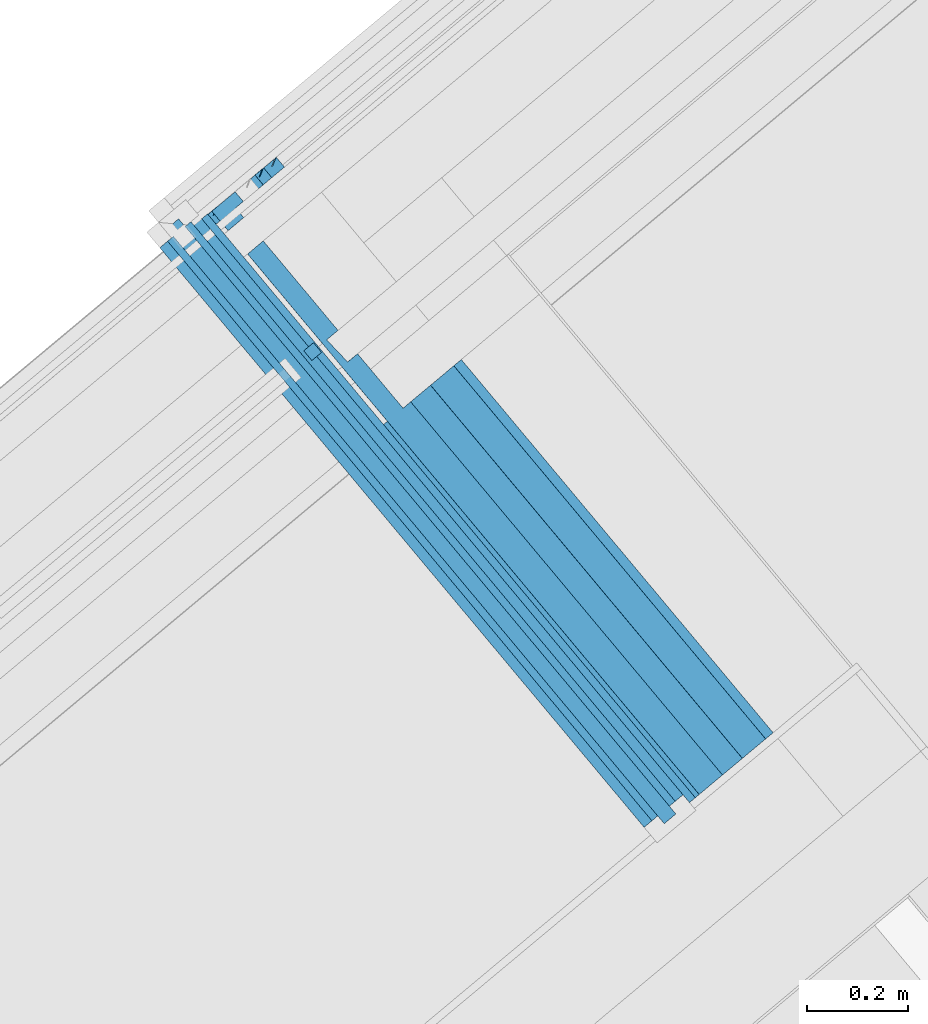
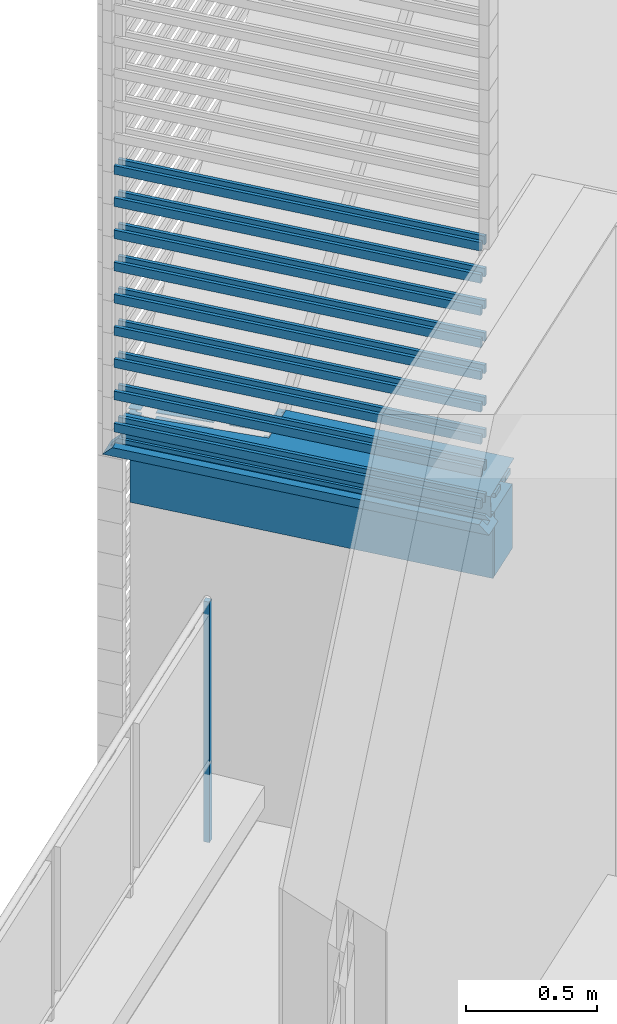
# One storey, part 21 of 50: 16 building element parts, 3 elements without a shape of their own.
"""IFC4 building model written with IfcOpenShell, lengths in metres."""

from ifc_helpers import new_model, entity, si_unit, converted_unit, derived_unit, direction, frame, origin_with_axes, place, context, subcontext, project, spatial, polygons, material, type_object, element, aggregate, save


model = new_model("IFC4")

# Units and contexts
model_context = context("Model", 3, precision=1e-05, world=origin_with_axes(), true_north=direction((0.0, 1.0)))
body_context = subcontext(model_context, "Body", "Model", "MODEL_VIEW")
ifc_project = project(units=[si_unit("LENGTHUNIT", "METRE"), si_unit("AREAUNIT", "SQUARE_METRE"), si_unit("VOLUMEUNIT", "CUBIC_METRE"), converted_unit("PLANEANGLEUNIT", "DEGREE", entity("IfcPlaneAngleMeasure", 0.0174532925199), si_unit("PLANEANGLEUNIT", "RADIAN"), dimensions=[0, 0, 0, 0, 0, 0, 0]), converted_unit("TIMEUNIT", "Year", entity("IfcTimeMeasure", 31556926.0), si_unit("TIMEUNIT", "SECOND"), dimensions=[0, 0, 1, 0, 0, 0, 0]), si_unit("MASSUNIT", "GRAM", prefix="KILO"), si_unit("THERMODYNAMICTEMPERATUREUNIT", "DEGREE_CELSIUS"), si_unit("LUMINOUSINTENSITYUNIT", "LUMEN"), si_unit("ENERGYUNIT", "JOULE", prefix="MEGA"), derived_unit("THERMALCONDUCTANCEUNIT", [(si_unit("POWERUNIT", "WATT"), 1), (si_unit("LENGTHUNIT", "METRE"), -1), (si_unit("THERMODYNAMICTEMPERATUREUNIT", "KELVIN"), -1)]), derived_unit("SPECIFICHEATCAPACITYUNIT", [(si_unit("ENERGYUNIT", "JOULE"), 1), (si_unit("MASSUNIT", "GRAM", prefix="KILO"), -1), (si_unit("THERMODYNAMICTEMPERATUREUNIT", "KELVIN"), -1)]), derived_unit("MASSDENSITYUNIT", [(si_unit("MASSUNIT", "GRAM", prefix="KILO"), 1), (si_unit("VOLUMEUNIT", "CUBIC_METRE"), -1)])], contexts=[model_context])

# Site, building, storey, space
site_placement = place(None, frame((-0.00153261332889, -0.00661245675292, 0.0), z_axis=(0.0, 0.0, 1.0), x_axis=(1.0, 0.0, 0.0)))
site = spatial("IfcSite", under=ifc_project, at=site_placement, Name="Gelände", CompositionType="ELEMENT")
building_placement = place(site_placement, origin_with_axes())
building = spatial("IfcBuilding", under=site, at=building_placement, Name="Gebäude", CompositionType="ELEMENT")
storey_placement = place(building_placement, frame((0.0, 0.0, 8.66), z_axis=(0.0, 0.0, 1.0), x_axis=(1.0, 0.0, 0.0)))
storey = spatial("IfcBuildingStorey", under=building, at=storey_placement, Name="DG2", CompositionType="ELEMENT", Elevation=8.66)
space_placement = place(storey_placement, frame((-4.06558748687, 22.1637970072, 0.22), z_axis=(0.0, 0.0, 1.0), x_axis=(-0.767365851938, -0.641209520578, 0.0)))
space = spatial("IfcSpace", under=storey, at=space_placement, CompositionType="ELEMENT", PredefinedType="NOTDEFINED")

# Wall, building element parts
wall_type = type_object("IfcWallType", Name="Bauteil - Attika Abschluss wand 264 x 407", PredefinedType="NOTDEFINED")
wall_placement = place(space_placement, frame((-0.215, 0.927485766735, 1.15845109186), z_axis=(0.0, 0.0, 1.0), x_axis=(-1.0, 0.0, 0.0)))
wall = element("IfcWall", 1, at=wall_placement, inside=space, type_object=wall_type, Name="Träger-001", PredefinedType="NOTDEFINED")
ifc_material_1 = material(Name="Zementputz")
building_element_part_1_placement = place(wall_placement, origin_with_axes())
building_element_part_1 = element("IfcBuildingElementPart", 2, at=building_element_part_1_placement, material=ifc_material_1, Name="Zementputz", PredefinedType="NOTDEFINED", context=body_context, shape_type="Tessellation", body=[
    polygons([(-0.199999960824, 0.0, 0.499999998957), (-0.199999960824, 0.0, 0.2), (-0.199999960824, 1.47453764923, 0.2), (-0.199999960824, 1.47453764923, 0.472030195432), (-0.199999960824, 1.47453764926, 0.483078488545), (-0.199999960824, 1.50008064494, 0.483078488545), (-0.199999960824, 1.5010379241, 0.484247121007), (-0.199999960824, 1.5010379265, 0.499999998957), (-0.214999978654, 0.0, 0.499999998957), (-0.214999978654, 0.0, 0.2), (-0.214999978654, 1.47453765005, 0.2), (-0.214999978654, 1.47453765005, 0.461527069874), (-0.214999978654, 1.47453765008, 0.472575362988), (-0.214999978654, 1.50008064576, 0.472575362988), (-0.214999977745, 1.50103792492, 0.473743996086), (-0.214999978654, 1.5010379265, 0.499999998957)], [[[1, 2, 3, 4, 5, 6, 7, 8]], [[9, 10, 2, 1]], [[2, 10, 11, 3]], [[11, 12, 4, 3]], [[12, 13, 5, 4]], [[13, 14, 6, 5]], [[14, 15, 7, 6]], [[16, 8, 7, 15]], [[16, 9, 1, 8]], [[14, 13, 12, 11, 10, 9, 16, 15]]], closed=True),
])
ifc_material_2 = material(Name="Stahl")
building_element_part_2_placement = place(wall_placement, origin_with_axes())
building_element_part_2 = element("IfcBuildingElementPart", 3, at=building_element_part_2_placement, material=ifc_material_2, Name="Stahl", PredefinedType="NOTDEFINED", context=body_context, shape_type="Tessellation", body=[
    polygons([(-0.0241998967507, 1.50008063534, 0.606175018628), (-0.0241998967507, 1.47453763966, 0.606175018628), (-0.0262211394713, 1.47453763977, 0.604759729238), (-0.0262211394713, 1.50008063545, 0.604759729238), (0.00865664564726, 0.928839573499, 0.60715408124), (-0.0055753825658, 0.936655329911, 0.606729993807), (-0.00391775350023, 0.937659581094, 0.606779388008), (0.0128649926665, 0.928443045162, 0.607279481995), (0.0111218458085, 0.927485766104, 0.607227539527), (-0.136009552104, 0.92748577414, 0.602843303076), (-0.170226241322, 0.927485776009, 0.60182371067), (-0.199999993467, 1.37915291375, 0.600936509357), (-0.199999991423, 1.41657407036, 0.600936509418), (-0.199999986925, 1.49891812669, 0.600936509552), (-0.167694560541, 1.49953765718, 0.601899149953), (-0.164514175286, 1.44952257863, 0.601993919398), (-0.116976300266, 1.44966264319, 0.603410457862), (-0.11697629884, 1.47453764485, 0.603410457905), (-0.0408971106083, 1.49091106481, 0.60567747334), (-0.0427257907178, 1.49182138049, 0.605622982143), (-0.0284082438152, 1.49968410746, 0.606049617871), (-0.199999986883, 1.49969027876, 0.600936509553), (-0.199999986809, 1.5010379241, 0.600936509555), (-0.244007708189, 1.5010379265, 0.59962516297), (-0.244007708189, 0.0, 0.59962516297), (0.0197167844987, 0.0, 0.607483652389), (0.0197167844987, 0.95953765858, 0.607483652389), (0.0128649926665, 0.959537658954, 0.607279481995), (-0.116976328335, 0.959537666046, 0.603410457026), (-0.11697632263, 1.05953766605, 0.603410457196), (-0.116976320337, 1.09953766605, 0.603410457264), (-0.142252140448, 1.09942743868, 0.60265728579), (-0.131449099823, 0.929537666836, 0.6029791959), (-0.167850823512, 0.928839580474, 0.601894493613), (-0.135510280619, 0.928839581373, 0.602858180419), (-0.118997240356, 1.47453764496, 0.601995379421), (-0.118997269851, 0.959537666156, 0.601995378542), (0.0108436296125, 0.959537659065, 0.605864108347), (0.0197570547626, 0.959537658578, 0.606129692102), (0.0197570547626, 0.0, 0.606129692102), (-0.241694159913, 0.0, 0.598339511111), (-0.241694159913, 1.5010379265, 0.598339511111), (-0.199999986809, 1.5010379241, 0.599581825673), (-0.199999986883, 1.49969020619, 0.599581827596), (-0.0304294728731, 1.49968410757, 0.604634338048), (-0.044746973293, 1.4918213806, 0.604207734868), (-0.0429182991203, 1.49091106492, 0.604262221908), (-0.118997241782, 1.4496626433, 0.601995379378), (-0.166534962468, 1.44952257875, 0.60057894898), (-0.169715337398, 1.49953765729, 0.600484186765), (-0.199999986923, 1.49895687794, 0.599581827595), (-0.199999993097, 1.38591841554, 0.599581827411), (-0.199999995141, 1.34849929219, 0.59958182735), (-0.172247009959, 0.927485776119, 0.600408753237), (-0.138030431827, 0.92748577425, 0.60142826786), (0.00910048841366, 0.927485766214, 0.605812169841), (0.0108436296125, 0.928443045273, 0.605864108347), (-0.00593906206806, 0.937659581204, 0.605364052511), (-0.00759668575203, 0.936655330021, 0.605314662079), (0.00663529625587, 0.928839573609, 0.605738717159), (-0.137531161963, 0.928839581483, 0.601443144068), (-0.169871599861, 0.928839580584, 0.60047953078), (-0.133469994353, 0.929537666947, 0.601564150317), (-0.144272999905, 1.09942743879, 0.601242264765), (-0.118997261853, 1.09953766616, 0.60199537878), (-0.118997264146, 1.05953766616, 0.601995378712), (-0.242570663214, 1.5010379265, 0.598313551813), (-0.236153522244, 1.5010379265, 0.501284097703), (-0.228826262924, 1.5010379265, 0.509648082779), (-0.22785172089, 1.5010379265, 0.508706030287), (-0.236396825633, 1.5010379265, 0.498951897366), (-0.237415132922, 1.5010379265, 0.499843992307), (-0.237415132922, 0.0, 0.499843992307), (-0.236396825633, 0.0, 0.498951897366), (-0.22785172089, 0.0, 0.508706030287), (-0.228826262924, 0.0, 0.509648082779), (-0.236153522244, 0.0, 0.501284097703), (-0.242570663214, 0.0, 0.598313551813)], [[[1, 2, 3, 4]], [[5, 6, 7, 8, 9, 10, 11, 12, 13, 14, 15, 16, 17, 18, 2, 1, 19, 20, 21, 22, 23, 24, 25, 26, 27, 28, 29, 30, 31, 32, 33, 34, 35]], [[36, 3, 2, 18]], [[37, 38, 39, 40, 41, 42, 43, 44, 45, 46, 47, 4, 3, 36, 48, 49, 50, 51, 52, 53, 54, 55, 56, 57, 58, 59, 60, 61, 62, 63, 64, 65, 66]], [[47, 19, 1, 4]], [[59, 6, 5, 60]], [[58, 7, 6, 59]], [[57, 8, 7, 58]], [[56, 9, 8, 57]], [[55, 10, 9, 56]], [[54, 11, 10, 55]], [[53, 12, 11, 54]], [[12, 53, 52, 13]], [[13, 52, 51, 14]], [[50, 15, 14, 51]], [[49, 16, 15, 50]], [[48, 17, 16, 49]], [[36, 18, 17, 48]], [[46, 20, 19, 47]], [[45, 21, 20, 46]], [[44, 22, 21, 45]], [[43, 23, 22, 44]], [[24, 23, 43, 42, 67, 68, 69, 70, 71, 72]], [[72, 73, 25, 24]], [[40, 26, 25, 73, 74, 75, 76, 77, 78, 41]], [[40, 39, 27, 26]], [[28, 27, 39, 38]], [[37, 29, 28, 38]], [[66, 30, 29, 37]], [[65, 31, 30, 66]], [[64, 32, 31, 65]], [[63, 33, 32, 64]], [[62, 34, 33, 63]], [[61, 35, 34, 62]], [[60, 5, 35, 61]], [[42, 41, 78, 67]], [[67, 78, 77, 68]], [[68, 77, 76, 69]], [[69, 76, 75, 70]], [[70, 75, 74, 71]], [[71, 74, 73, 72]]], closed=True),
    polygons([(-0.148095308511, 1.15953766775, 0.601128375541), (-0.162728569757, 1.38966264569, 0.600692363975), (-0.118997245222, 1.3896626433, 0.601995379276), (-0.118997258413, 1.15953766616, 0.601995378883), (-0.146074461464, 1.15953766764, 0.602543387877), (-0.160707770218, 1.38966264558, 0.602107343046), (-0.116976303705, 1.38966264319, 0.60341045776), (-0.116976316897, 1.15953766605, 0.603410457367)], [[[1, 2, 3, 4]], [[1, 5, 6, 2]], [[2, 6, 7, 3]], [[3, 7, 8, 4]], [[4, 8, 5, 1]], [[7, 6, 5, 8]]], closed=True),
])
ifc_material_3 = material(Name="Vollholz")
building_element_part_3_placement = place(wall_placement, origin_with_axes())
building_element_part_3 = element("IfcBuildingElementPart", 4, at=building_element_part_3_placement, material=ifc_material_3, Name="Vollholz", PredefinedType="NOTDEFINED", context=body_context, shape_type="Tessellation", body=[
    polygons([(-0.149758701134, 1.44966264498, 0.580455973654), (-0.149758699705, 1.47453764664, 0.580455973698), (-0.130124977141, 1.47453764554, 0.581066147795), (-0.130124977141, 1.49968658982, 0.581066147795), (-0.19002193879, 1.49968873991, 0.57920467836), (-0.19002193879, 1.44954424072, 0.57920467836), (-0.178972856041, 1.47453764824, 0.560000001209), (-0.178972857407, 1.44966264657, 0.560000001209), (-0.130124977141, 1.4745376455, 0.560000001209), (-0.130124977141, 1.49968546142, 0.560000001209), (-0.190124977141, 1.49968771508, 0.560000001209), (-0.190124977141, 1.44962832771, 0.560000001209)], [[[1, 2, 3, 4, 5, 6]], [[7, 2, 1, 8]], [[7, 9, 3, 2]], [[4, 3, 9, 10]], [[11, 5, 4, 10]], [[11, 12, 6, 5]], [[8, 1, 6, 12]], [[7, 8, 12, 11, 10, 9]]], closed=True),
    polygons([(-0.130124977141, 0.0, 0.560000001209), (-0.130124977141, 0.959537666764, 0.560000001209), (-0.130124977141, 0.959537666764, 0.581066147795), (-0.130124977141, 0.0, 0.581066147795), (-0.178972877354, 1.09953766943, 0.560000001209), (-0.178972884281, 0.959537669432, 0.560000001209), (-0.190124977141, 0.0, 0.560000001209), (-0.190124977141, 1.09948687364, 0.560000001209), (-0.149758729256, 0.959537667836, 0.58045597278), (-0.149758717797, 1.15953766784, 0.580455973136), (-0.14975870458, 1.38966264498, 0.580455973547), (-0.19002193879, 1.38966264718, 0.57920467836), (-0.19002193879, 0.0, 0.57920467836), (-0.14975872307, 1.09953766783, 0.580455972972), (-0.175082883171, 1.09942744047, 0.57966895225), (-0.17891251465, 1.15953766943, 0.579549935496), (-0.190061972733, 1.15953767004, 0.5717430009), (-0.1900757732, 1.09942744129, 0.569170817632), (-0.190124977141, 1.38966264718, 0.560000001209), (-0.190124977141, 1.15953767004, 0.560000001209), (-0.1789728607, 1.38966264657, 0.560000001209), (-0.17897287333, 1.15953766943, 0.560000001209)], [[[1, 2, 3, 4]], [[5, 6, 2, 1, 7, 8]], [[6, 9, 3, 2]], [[10, 11, 12, 13, 4, 3, 9, 14, 15, 16]], [[1, 4, 13, 7]], [[5, 14, 9, 6]], [[17, 18, 8, 7, 13, 12, 19, 20]], [[18, 15, 14, 5, 8]], [[21, 11, 10, 22]], [[19, 12, 11, 21]], [[17, 16, 15, 18]], [[22, 10, 16, 17, 20]], [[21, 22, 20, 19]]], closed=True),
])
building_element_part_4_placement = place(wall_placement, origin_with_axes())
building_element_part_4 = element("IfcBuildingElementPart", 5, at=building_element_part_4_placement, material=ifc_material_3, Name="Vollholz", PredefinedType="NOTDEFINED", context=body_context, shape_type="Tessellation", body=[
    polygons([(-0.0789260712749, 1.49968475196, 0.582657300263), (-0.0789260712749, 1.47453764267, 0.582657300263), (-0.0568048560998, 1.47453764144, 0.583344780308), (-0.0568048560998, 1.50008063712, 0.583344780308), (-0.0735340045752, 1.49091106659, 0.582824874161), (-0.0753661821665, 1.49182138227, 0.582767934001), (-0.0610212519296, 1.49968410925, 0.583213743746), (-0.0790723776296, 1.50008063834, 0.567752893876), (-0.0790723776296, 1.47453764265, 0.567752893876), (-0.0790444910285, 1.49968411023, 0.570593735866), (-0.0789496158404, 1.49182138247, 0.58025878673), (-0.0789617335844, 1.49091106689, 0.579024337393)], [[[1, 2, 3, 4, 5, 6, 7]], [[8, 9, 2, 1, 10, 11, 12]], [[2, 9, 3]], [[4, 3, 9, 8]], [[12, 5, 4, 8]], [[11, 6, 5, 12]], [[10, 7, 6, 11]], [[10, 1, 7]]], closed=True),
    polygons([(-0.07914848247, 0.0, 0.560000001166), (-0.07914848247, 0.95953766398, 0.560000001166), (-0.01914848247, 0.959537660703, 0.560000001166), (-0.01914848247, 0.0, 0.560000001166), (-0.0789260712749, 0.0, 0.582657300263), (-0.0789260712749, 0.959537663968, 0.582657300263), (-0.019237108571, 0.959537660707, 0.584512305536), (-0.019237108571, 0.0, 0.584512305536)], [[[1, 2, 3, 4]], [[5, 6, 2, 1]], [[6, 7, 3, 2]], [[4, 3, 7, 8]], [[4, 8, 5, 1]], [[8, 7, 6, 5]]], closed=True),
])
ifc_material_4 = material(Name="EPS 1")
building_element_part_5_placement = place(wall_placement, origin_with_axes())
building_element_part_5 = element("IfcBuildingElementPart", 6, at=building_element_part_5_placement, material=ifc_material_4, Name="EPS 1", PredefinedType="NOTDEFINED", context=body_context, shape_type="Tessellation", body=[
    polygons([(-2.39911202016e-10, 1.05953765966, 0.2), (-2.39911202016e-10, 1.05953765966, 0.288566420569), (-2.39909425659e-10, 0.959537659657, 0.288566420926), (-2.39911202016e-10, 0.959537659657, 0.499999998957), (-2.39911202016e-10, 0.0, 0.499999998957), (-2.39911202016e-10, 0.0, 0.2), (-0.126485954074, 1.05953766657, 0.2), (-0.12648595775, 0.959537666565, 0.2), (-0.200000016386, 0.959537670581, 0.2), (-0.200000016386, 0.959537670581, 0.499999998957), (-0.19999996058, 0.0, 0.499999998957), (-0.19999996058, 0.0, 0.2)], [[[1, 2, 3, 4, 5, 6]], [[7, 2, 1]], [[8, 3, 2, 7]], [[9, 10, 4, 3, 8]], [[5, 4, 10, 11]], [[12, 6, 5, 11]], [[8, 7, 1, 6, 12, 9]], [[11, 10, 9, 12]]], closed=True),
    polygons([(-0.199999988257, 1.47453764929, 0.499999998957), (-0.175833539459, 1.47453764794, 0.499999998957), (-0.175833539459, 1.50008064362, 0.499999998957), (-0.191820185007, 1.49091107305, 0.499999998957), (-0.193571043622, 1.49182138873, 0.499999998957), (-0.179862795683, 1.49968411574, 0.499999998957), (-0.199999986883, 1.49968487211, 0.499999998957), (-0.199999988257, 1.47453764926, 0.483078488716), (-0.199999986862, 1.50008064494, 0.483078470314), (-0.199999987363, 1.4909110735, 0.494272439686), (-0.199999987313, 1.49182138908, 0.495498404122), (-0.199999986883, 1.49968411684, 0.48589978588)], [[[1, 2, 3, 4, 5, 6, 7]], [[8, 2, 1]], [[2, 8, 9, 3]], [[4, 3, 9, 10]], [[5, 4, 10, 11]], [[6, 5, 11, 12]], [[7, 6, 12]], [[8, 1, 7, 12, 11, 10, 9]]], closed=True),
])
aggregate(wall, [building_element_part_1, building_element_part_2, building_element_part_3, building_element_part_4, building_element_part_5])

# Railing, building element part
railing_type = type_object("IfcRailingType", Name="Geländerart", PredefinedType="NOTDEFINED")
railing_placement = place(space_placement, frame((5.14520574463, 0.942485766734, 0.16), z_axis=(0.0, 0.0, 1.0), x_axis=(-0.767365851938, 0.641209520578, 0.0)))
railing = element("IfcRailing", 7, at=railing_placement, inside=space, type_object=railing_type, Name="Geländer - 001", PredefinedType="NOTDEFINED")
ifc_material_5 = material(Name="Aluminium")
building_element_part_6_placement = place(railing_placement, origin_with_axes())
building_element_part_6 = element("IfcBuildingElementPart", 8, at=building_element_part_6_placement, material=ifc_material_5, Name="Aluminium", PredefinedType="NOTDEFINED", context=body_context, shape_type="Tessellation", body=[
    polygons([(3.21273755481, 4.19887816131, -0.3), (3.19670731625, 4.21806230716, -0.3), (3.19670731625, 4.21806230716, 0.82), (3.21273755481, 4.19887816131, 0.82), (3.19355340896, 4.18284792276, -0.3), (3.1775231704, 4.20203206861, -0.3), (3.1775231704, 4.20203206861, 0.82), (3.19355340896, 4.18284792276, 0.82)], [[[1, 2, 3, 4]], [[1, 5, 6, 2]], [[2, 6, 7, 3]], [[4, 3, 7, 8]], [[5, 1, 4, 8]], [[6, 5, 8, 7]]], closed=True),
])
aggregate(railing, [building_element_part_6])

# Curtain wall, building element parts
curtain_wall_type = type_object("IfcCurtainWallType", Name="Fassadentyp", PredefinedType="NOTDEFINED")
curtain_wall_placement = place(space_placement, frame((0.05, 0.162364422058, 1.65), z_axis=(0.0, 0.0, 1.0), x_axis=(-0.767365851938, 0.641209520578, 0.0)))
curtain_wall = element("IfcCurtainWall", 9, at=curtain_wall_placement, inside=space, type_object=curtain_wall_type, Name="Fassade-001", PredefinedType="NOTDEFINED")
ifc_material_6 = material(Name="Blech")
building_element_part_7_placement = place(curtain_wall_placement, origin_with_axes())
building_element_part_7 = element("IfcBuildingElementPart", 10, at=building_element_part_7_placement, material=ifc_material_6, Name="Blech", PredefinedType="NOTDEFINED", context=body_context, shape_type="Tessellation", body=[
    polygons([(0.502113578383, -0.577509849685, 0.0), (0.479092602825, -0.596746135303, 0.0), (0.466268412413, -0.581398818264, 0.02), (0.439410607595, -0.603841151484, 0.02), (0.465058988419, -0.634535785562, -0.02), (0.541795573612, -0.570414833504, -0.02), (0.516147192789, -0.539720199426, 0.02), (0.489289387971, -0.562162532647, 0.02), (-0.479092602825, 0.596746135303, 0.0), (-0.502113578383, 0.577509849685, 0.0), (-0.489289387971, 0.562162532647, 0.02), (-0.516147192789, 0.539720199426, 0.02), (-0.541795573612, 0.570414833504, -0.02), (-0.465058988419, 0.634535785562, -0.02), (-0.439410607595, 0.603841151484, 0.02), (-0.466268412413, 0.581398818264, 0.02)], [[[1, 2, 3, 4, 5, 6, 7, 8]], [[2, 1, 9, 10]], [[11, 3, 2, 10]], [[3, 11, 12, 4]], [[5, 4, 12, 13]], [[6, 5, 13, 14]], [[7, 6, 14, 15]], [[16, 8, 7, 15]], [[1, 8, 16, 9]], [[9, 16, 15, 14, 13, 12, 11, 10]]], closed=True),
])
building_element_part_8_placement = place(curtain_wall_placement, origin_with_axes())
building_element_part_8 = element("IfcBuildingElementPart", 11, at=building_element_part_8_placement, material=ifc_material_6, Name="Blech", PredefinedType="NOTDEFINED", context=body_context, shape_type="Tessellation", body=[
    polygons([(-0.466268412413, 0.581398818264, 0.100000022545), (-0.466268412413, 0.581398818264, 0.0800000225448), (0.489289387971, -0.562162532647, 0.0800000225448), (0.489289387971, -0.562162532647, 0.100000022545), (0.489289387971, -0.562162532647, 0.120000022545), (-0.466268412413, 0.581398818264, 0.120000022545), (-0.454757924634, 0.591016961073, 0.120000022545), (-0.454757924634, 0.591016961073, 0.0800000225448), (0.50079987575, -0.552544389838, 0.0800000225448), (0.50079987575, -0.552544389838, 0.120000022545)], [[[1, 2, 3, 4, 5, 6]], [[2, 1, 6, 7, 8]], [[3, 2, 8, 9]], [[4, 3, 9, 10, 5]], [[5, 10, 7, 6]], [[9, 8, 7, 10]]], closed=True),
    polygons([(0.466268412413, -0.581398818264, 0.0800000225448), (0.466268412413, -0.581398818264, 0.100000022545), (0.466268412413, -0.581398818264, 0.120000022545), (0.454757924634, -0.591016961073, 0.120000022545), (0.454757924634, -0.591016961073, 0.0800000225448), (-0.489289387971, 0.562162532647, 0.0800000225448), (-0.489289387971, 0.562162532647, 0.100000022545), (-0.489289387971, 0.562162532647, 0.120000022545), (-0.500799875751, 0.552544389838, 0.120000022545), (-0.500799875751, 0.552544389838, 0.0800000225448)], [[[1, 2, 3, 4, 5]], [[2, 1, 6, 7, 8, 3]], [[8, 9, 4, 3]], [[4, 9, 10, 5]], [[6, 1, 5, 10]], [[7, 6, 10, 9, 8]]], closed=True),
])
building_element_part_9_placement = place(curtain_wall_placement, origin_with_axes())
building_element_part_9 = element("IfcBuildingElementPart", 12, at=building_element_part_9_placement, material=ifc_material_6, Name="Blech", PredefinedType="NOTDEFINED", context=body_context, shape_type="Tessellation", body=[
    polygons([(-0.466268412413, 0.581398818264, 0.250000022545), (-0.466268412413, 0.581398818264, 0.230000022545), (0.489289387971, -0.562162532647, 0.230000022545), (0.489289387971, -0.562162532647, 0.250000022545), (0.489289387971, -0.562162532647, 0.270000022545), (-0.466268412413, 0.581398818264, 0.270000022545), (-0.454757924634, 0.591016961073, 0.270000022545), (-0.454757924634, 0.591016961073, 0.230000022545), (0.50079987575, -0.552544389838, 0.230000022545), (0.50079987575, -0.552544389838, 0.270000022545)], [[[1, 2, 3, 4, 5, 6]], [[2, 1, 6, 7, 8]], [[3, 2, 8, 9]], [[4, 3, 9, 10, 5]], [[5, 10, 7, 6]], [[9, 8, 7, 10]]], closed=True),
    polygons([(0.466268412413, -0.581398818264, 0.230000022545), (0.466268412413, -0.581398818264, 0.250000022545), (0.466268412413, -0.581398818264, 0.270000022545), (0.454757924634, -0.591016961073, 0.270000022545), (0.454757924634, -0.591016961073, 0.230000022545), (-0.489289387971, 0.562162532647, 0.230000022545), (-0.489289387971, 0.562162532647, 0.250000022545), (-0.489289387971, 0.562162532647, 0.270000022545), (-0.500799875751, 0.552544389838, 0.270000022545), (-0.500799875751, 0.552544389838, 0.230000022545)], [[[1, 2, 3, 4, 5]], [[2, 1, 6, 7, 8, 3]], [[8, 9, 4, 3]], [[4, 9, 10, 5]], [[6, 1, 5, 10]], [[7, 6, 10, 9, 8]]], closed=True),
])
building_element_part_10_placement = place(curtain_wall_placement, origin_with_axes())
building_element_part_10 = element("IfcBuildingElementPart", 13, at=building_element_part_10_placement, material=ifc_material_6, Name="Blech", PredefinedType="NOTDEFINED", context=body_context, shape_type="Tessellation", body=[
    polygons([(-0.466268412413, 0.581398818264, 0.400000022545), (-0.466268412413, 0.581398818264, 0.380000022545), (0.489289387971, -0.562162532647, 0.380000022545), (0.489289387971, -0.562162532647, 0.400000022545), (0.489289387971, -0.562162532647, 0.420000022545), (-0.466268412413, 0.581398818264, 0.420000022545), (-0.454757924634, 0.591016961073, 0.420000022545), (-0.454757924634, 0.591016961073, 0.380000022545), (0.50079987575, -0.552544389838, 0.380000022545), (0.50079987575, -0.552544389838, 0.420000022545)], [[[1, 2, 3, 4, 5, 6]], [[2, 1, 6, 7, 8]], [[3, 2, 8, 9]], [[4, 3, 9, 10, 5]], [[5, 10, 7, 6]], [[9, 8, 7, 10]]], closed=True),
    polygons([(0.466268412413, -0.581398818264, 0.380000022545), (0.466268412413, -0.581398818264, 0.400000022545), (0.466268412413, -0.581398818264, 0.420000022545), (0.454757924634, -0.591016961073, 0.420000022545), (0.454757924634, -0.591016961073, 0.380000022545), (-0.489289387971, 0.562162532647, 0.380000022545), (-0.489289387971, 0.562162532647, 0.400000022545), (-0.489289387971, 0.562162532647, 0.420000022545), (-0.500799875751, 0.552544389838, 0.420000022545), (-0.500799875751, 0.552544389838, 0.380000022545)], [[[1, 2, 3, 4, 5]], [[2, 1, 6, 7, 8, 3]], [[8, 9, 4, 3]], [[4, 9, 10, 5]], [[6, 1, 5, 10]], [[7, 6, 10, 9, 8]]], closed=True),
])
building_element_part_11_placement = place(curtain_wall_placement, origin_with_axes())
building_element_part_11 = element("IfcBuildingElementPart", 14, at=building_element_part_11_placement, material=ifc_material_6, Name="Blech", PredefinedType="NOTDEFINED", context=body_context, shape_type="Tessellation", body=[
    polygons([(-0.466268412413, 0.581398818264, 0.550000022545), (-0.466268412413, 0.581398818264, 0.530000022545), (0.489289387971, -0.562162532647, 0.530000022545), (0.489289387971, -0.562162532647, 0.550000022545), (0.489289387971, -0.562162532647, 0.570000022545), (-0.466268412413, 0.581398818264, 0.570000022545), (-0.454757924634, 0.591016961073, 0.570000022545), (-0.454757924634, 0.591016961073, 0.530000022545), (0.50079987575, -0.552544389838, 0.530000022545), (0.50079987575, -0.552544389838, 0.570000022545)], [[[1, 2, 3, 4, 5, 6]], [[2, 1, 6, 7, 8]], [[3, 2, 8, 9]], [[4, 3, 9, 10, 5]], [[5, 10, 7, 6]], [[9, 8, 7, 10]]], closed=True),
    polygons([(0.466268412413, -0.581398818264, 0.530000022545), (0.466268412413, -0.581398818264, 0.550000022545), (0.466268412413, -0.581398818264, 0.570000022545), (0.454757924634, -0.591016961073, 0.570000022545), (0.454757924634, -0.591016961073, 0.530000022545), (-0.489289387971, 0.562162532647, 0.530000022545), (-0.489289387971, 0.562162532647, 0.550000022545), (-0.489289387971, 0.562162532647, 0.570000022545), (-0.500799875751, 0.552544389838, 0.570000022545), (-0.500799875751, 0.552544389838, 0.530000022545)], [[[1, 2, 3, 4, 5]], [[2, 1, 6, 7, 8, 3]], [[8, 9, 4, 3]], [[4, 9, 10, 5]], [[6, 1, 5, 10]], [[7, 6, 10, 9, 8]]], closed=True),
])
building_element_part_12_placement = place(curtain_wall_placement, origin_with_axes())
building_element_part_12 = element("IfcBuildingElementPart", 15, at=building_element_part_12_placement, material=ifc_material_6, Name="Blech", PredefinedType="NOTDEFINED", context=body_context, shape_type="Tessellation", body=[
    polygons([(-0.466268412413, 0.581398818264, 0.700000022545), (-0.466268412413, 0.581398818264, 0.680000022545), (0.489289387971, -0.562162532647, 0.680000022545), (0.489289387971, -0.562162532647, 0.700000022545), (0.489289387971, -0.562162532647, 0.720000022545), (-0.466268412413, 0.581398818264, 0.720000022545), (-0.454757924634, 0.591016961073, 0.720000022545), (-0.454757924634, 0.591016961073, 0.680000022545), (0.50079987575, -0.552544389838, 0.680000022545), (0.50079987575, -0.552544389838, 0.720000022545)], [[[1, 2, 3, 4, 5, 6]], [[2, 1, 6, 7, 8]], [[3, 2, 8, 9]], [[4, 3, 9, 10, 5]], [[5, 10, 7, 6]], [[9, 8, 7, 10]]], closed=True),
    polygons([(0.466268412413, -0.581398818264, 0.680000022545), (0.466268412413, -0.581398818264, 0.700000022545), (0.466268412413, -0.581398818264, 0.720000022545), (0.454757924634, -0.591016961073, 0.720000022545), (0.454757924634, -0.591016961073, 0.680000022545), (-0.489289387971, 0.562162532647, 0.680000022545), (-0.489289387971, 0.562162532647, 0.700000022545), (-0.489289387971, 0.562162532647, 0.720000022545), (-0.500799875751, 0.552544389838, 0.720000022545), (-0.500799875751, 0.552544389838, 0.680000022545)], [[[1, 2, 3, 4, 5]], [[2, 1, 6, 7, 8, 3]], [[8, 9, 4, 3]], [[4, 9, 10, 5]], [[6, 1, 5, 10]], [[7, 6, 10, 9, 8]]], closed=True),
])
building_element_part_13_placement = place(curtain_wall_placement, origin_with_axes())
building_element_part_13 = element("IfcBuildingElementPart", 16, at=building_element_part_13_placement, material=ifc_material_6, Name="Blech", PredefinedType="NOTDEFINED", context=body_context, shape_type="Tessellation", body=[
    polygons([(-0.466268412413, 0.581398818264, 0.850000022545), (-0.466268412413, 0.581398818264, 0.830000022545), (0.489289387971, -0.562162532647, 0.830000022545), (0.489289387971, -0.562162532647, 0.850000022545), (0.489289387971, -0.562162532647, 0.870000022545), (-0.466268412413, 0.581398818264, 0.870000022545), (-0.454757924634, 0.591016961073, 0.870000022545), (-0.454757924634, 0.591016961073, 0.830000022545), (0.50079987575, -0.552544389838, 0.830000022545), (0.50079987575, -0.552544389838, 0.870000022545)], [[[1, 2, 3, 4, 5, 6]], [[2, 1, 6, 7, 8]], [[3, 2, 8, 9]], [[4, 3, 9, 10, 5]], [[5, 10, 7, 6]], [[9, 8, 7, 10]]], closed=True),
    polygons([(0.466268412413, -0.581398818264, 0.830000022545), (0.466268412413, -0.581398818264, 0.850000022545), (0.466268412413, -0.581398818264, 0.870000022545), (0.454757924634, -0.591016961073, 0.870000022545), (0.454757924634, -0.591016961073, 0.830000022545), (-0.489289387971, 0.562162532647, 0.830000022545), (-0.489289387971, 0.562162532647, 0.850000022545), (-0.489289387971, 0.562162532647, 0.870000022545), (-0.500799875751, 0.552544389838, 0.870000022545), (-0.500799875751, 0.552544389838, 0.830000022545)], [[[1, 2, 3, 4, 5]], [[2, 1, 6, 7, 8, 3]], [[8, 9, 4, 3]], [[4, 9, 10, 5]], [[6, 1, 5, 10]], [[7, 6, 10, 9, 8]]], closed=True),
])
building_element_part_14_placement = place(curtain_wall_placement, origin_with_axes())
building_element_part_14 = element("IfcBuildingElementPart", 17, at=building_element_part_14_placement, material=ifc_material_6, Name="Blech", PredefinedType="NOTDEFINED", context=body_context, shape_type="Tessellation", body=[
    polygons([(-0.466268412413, 0.581398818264, 1.00000002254), (-0.466268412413, 0.581398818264, 0.980000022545), (0.489289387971, -0.562162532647, 0.980000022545), (0.489289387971, -0.562162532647, 1.00000002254), (0.489289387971, -0.562162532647, 1.02000002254), (-0.466268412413, 0.581398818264, 1.02000002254), (-0.454757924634, 0.591016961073, 1.02000002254), (-0.454757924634, 0.591016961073, 0.980000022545), (0.50079987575, -0.552544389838, 0.980000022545), (0.50079987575, -0.552544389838, 1.02000002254)], [[[1, 2, 3, 4, 5, 6]], [[2, 1, 6, 7, 8]], [[3, 2, 8, 9]], [[4, 3, 9, 10, 5]], [[5, 10, 7, 6]], [[9, 8, 7, 10]]], closed=True),
    polygons([(0.466268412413, -0.581398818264, 0.980000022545), (0.466268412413, -0.581398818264, 1.00000002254), (0.466268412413, -0.581398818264, 1.02000002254), (0.454757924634, -0.591016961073, 1.02000002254), (0.454757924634, -0.591016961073, 0.980000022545), (-0.489289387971, 0.562162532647, 0.980000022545), (-0.489289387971, 0.562162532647, 1.00000002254), (-0.489289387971, 0.562162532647, 1.02000002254), (-0.500799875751, 0.552544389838, 1.02000002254), (-0.500799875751, 0.552544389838, 0.980000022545)], [[[1, 2, 3, 4, 5]], [[2, 1, 6, 7, 8, 3]], [[8, 9, 4, 3]], [[4, 9, 10, 5]], [[6, 1, 5, 10]], [[7, 6, 10, 9, 8]]], closed=True),
])
building_element_part_15_placement = place(curtain_wall_placement, origin_with_axes())
building_element_part_15 = element("IfcBuildingElementPart", 18, at=building_element_part_15_placement, material=ifc_material_6, Name="Blech", PredefinedType="NOTDEFINED", context=body_context, shape_type="Tessellation", body=[
    polygons([(-0.466268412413, 0.581398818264, 1.15000002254), (-0.466268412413, 0.581398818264, 1.13000002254), (0.489289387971, -0.562162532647, 1.13000002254), (0.489289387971, -0.562162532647, 1.15000002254), (0.489289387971, -0.562162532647, 1.17000002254), (-0.466268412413, 0.581398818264, 1.17000002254), (-0.454757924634, 0.591016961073, 1.17000002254), (-0.454757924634, 0.591016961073, 1.13000002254), (0.50079987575, -0.552544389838, 1.13000002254), (0.50079987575, -0.552544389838, 1.17000002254)], [[[1, 2, 3, 4, 5, 6]], [[2, 1, 6, 7, 8]], [[3, 2, 8, 9]], [[4, 3, 9, 10, 5]], [[5, 10, 7, 6]], [[9, 8, 7, 10]]], closed=True),
    polygons([(0.466268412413, -0.581398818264, 1.13000002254), (0.466268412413, -0.581398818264, 1.15000002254), (0.466268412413, -0.581398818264, 1.17000002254), (0.454757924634, -0.591016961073, 1.17000002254), (0.454757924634, -0.591016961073, 1.13000002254), (-0.489289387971, 0.562162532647, 1.13000002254), (-0.489289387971, 0.562162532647, 1.15000002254), (-0.489289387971, 0.562162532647, 1.17000002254), (-0.500799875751, 0.552544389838, 1.17000002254), (-0.500799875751, 0.552544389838, 1.13000002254)], [[[1, 2, 3, 4, 5]], [[2, 1, 6, 7, 8, 3]], [[8, 9, 4, 3]], [[4, 9, 10, 5]], [[6, 1, 5, 10]], [[7, 6, 10, 9, 8]]], closed=True),
])
building_element_part_16_placement = place(curtain_wall_placement, origin_with_axes())
building_element_part_16 = element("IfcBuildingElementPart", 19, at=building_element_part_16_placement, material=ifc_material_6, Name="Blech", PredefinedType="NOTDEFINED", context=body_context, shape_type="Tessellation", body=[
    polygons([(-0.466268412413, 0.581398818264, 1.30000002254), (-0.466268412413, 0.581398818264, 1.28000002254), (0.489289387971, -0.562162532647, 1.28000002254), (0.489289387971, -0.562162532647, 1.30000002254), (0.489289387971, -0.562162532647, 1.32000002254), (-0.466268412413, 0.581398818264, 1.32000002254), (-0.454757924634, 0.591016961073, 1.32000002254), (-0.454757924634, 0.591016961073, 1.28000002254), (0.50079987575, -0.552544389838, 1.28000002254), (0.50079987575, -0.552544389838, 1.32000002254)], [[[1, 2, 3, 4, 5, 6]], [[2, 1, 6, 7, 8]], [[3, 2, 8, 9]], [[4, 3, 9, 10, 5]], [[5, 10, 7, 6]], [[9, 8, 7, 10]]], closed=True),
    polygons([(0.466268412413, -0.581398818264, 1.28000002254), (0.466268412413, -0.581398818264, 1.30000002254), (0.466268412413, -0.581398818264, 1.32000002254), (0.454757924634, -0.591016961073, 1.32000002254), (0.454757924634, -0.591016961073, 1.28000002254), (-0.489289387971, 0.562162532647, 1.28000002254), (-0.489289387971, 0.562162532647, 1.30000002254), (-0.489289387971, 0.562162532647, 1.32000002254), (-0.500799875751, 0.552544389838, 1.32000002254), (-0.500799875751, 0.552544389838, 1.28000002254)], [[[1, 2, 3, 4, 5]], [[2, 1, 6, 7, 8, 3]], [[8, 9, 4, 3]], [[4, 9, 10, 5]], [[6, 1, 5, 10]], [[7, 6, 10, 9, 8]]], closed=True),
])
aggregate(curtain_wall, [building_element_part_7, building_element_part_8, building_element_part_9, building_element_part_10, building_element_part_11, building_element_part_12, building_element_part_13, building_element_part_14, building_element_part_15, building_element_part_16])

save(model, "model.ifc")
